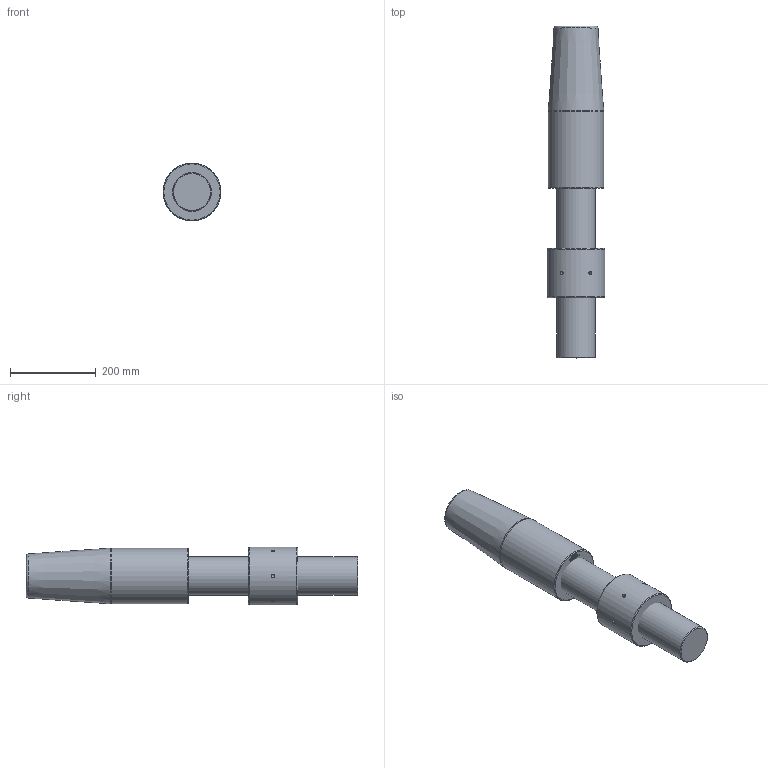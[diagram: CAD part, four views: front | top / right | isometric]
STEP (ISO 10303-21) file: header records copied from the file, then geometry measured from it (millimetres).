
FILE_DESCRIPTION(/* description */ (''),/* implementation_level */ '2;1');
FILE_NAME(/* name */ 'C:\Users\ranca\Desktop\CYM\ARRANGEMENT\CYM044 52 061 0.stp',/* time_stamp */ '2021-04-22T18:45:14+02:00',/* author */ ('ranca'),/* organization */ (''),/* preprocessor_version */ 'ST-DEVELOPER v16.13',/* originating_system */ 'Autodesk Inventor 2018',/* authorisation */ '');
FILE_SCHEMA (('AUTOMOTIVE_DESIGN { 1 0 10303 214 3 1 1 }'));
Length unit declared in the file: millimetre
Products named in the file (4): CYM040-52-061-0; CYM012-52-061-0_ROD; CYC044 52 065 0_CYL SOK_RH; CYM044-41-051-0
Assembly tree (3 placements, depth 2):
  CYM040-52-061-0
    CYM012-52-061-0_ROD
    CYC044 52 065 0_CYL SOK_RH
    CYM044-41-051-0
Bounding box: 135 x 773 x 135 mm (x, y, z)
Volume: 9311571.1 mm3; surface area: 397494.3 mm2
Topology: 3 solids, 3 shells, 508 faces, 1354 edges, 900 vertices
Faces by surface type: plane 274, bspline 212, cone 11, cylinder 9, torus 2
Full cylindrical faces by diameter (mm): 8 x6, 90 x1, 130 x1, 135 x1
Entity records: 16921 total; most frequent: CARTESIAN_POINT 5715, ORIENTED_EDGE 2650, DIRECTION 1518, EDGE_CURVE 1325, VERTEX_POINT 894, LINE 868, VECTOR 868, EDGE_LOOP 579
